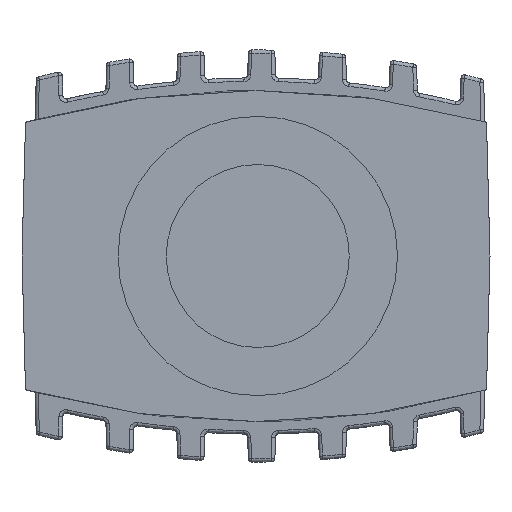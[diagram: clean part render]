
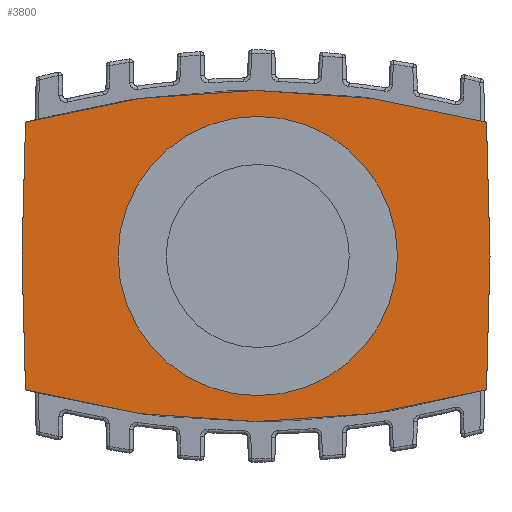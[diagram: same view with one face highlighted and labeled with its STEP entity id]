
A CAD part, front view. The second image highlights one B-rep face of the part: STEP entity #3800.
In plain terms, the highlighted planar face has unit normal (0, -1, 0).
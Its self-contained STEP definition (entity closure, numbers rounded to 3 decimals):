
#3564=CARTESIAN_POINT('',(16.52,0.,-1.5));
#3565=VERTEX_POINT('',#3564);
#3572=CARTESIAN_POINT('',(16.52,0.,1.5));
#3573=VERTEX_POINT('',#3572);
#3574=CARTESIAN_POINT('',(16.52,0.,1.5));
#3575=DIRECTION('',(0.0,0.0,-1.0));
#3576=VECTOR('',#3575,3.);
#3577=LINE('',#3574,#3576);
#3578=EDGE_CURVE('',#3573,#3565,#3577,.T.);
#3706=CARTESIAN_POINT('',(18.038,0.,1.5));
#3707=VERTEX_POINT('',#3706);
#3708=CARTESIAN_POINT('',(18.038,0.,1.5));
#3709=DIRECTION('',(-1.0,0.0,0.0));
#3710=VECTOR('',#3709,1.517);
#3711=LINE('',#3708,#3710);
#3712=EDGE_CURVE('',#3707,#3573,#3711,.T.);
#3724=CARTESIAN_POINT('',(-0.25,0.,-4.512));
#3725=DIRECTION('',(0.0,-1.0,0.0));
#3726=DIRECTION('',(0.0,0.0,-1.0));
#3727=AXIS2_PLACEMENT_3D('',#3724,#3725,#3726);
#3728=PLANE('',#3727);
#3729=CARTESIAN_POINT('',(-33.248,0.,-19.153));
#3730=VERTEX_POINT('',#3729);
#3731=CARTESIAN_POINT('',(32.748,0.,-19.153));
#3732=VERTEX_POINT('',#3731);
#3733=CARTESIAN_POINT('',(-0.25,0.,98.3));
#3734=DIRECTION('',(0.,-1.,0.));
#3735=DIRECTION('',(-0.27,0.,-0.963));
#3736=AXIS2_PLACEMENT_3D('',#3733,#3734,#3735);
#3737=CIRCLE('',#3736,122.);
#3738=EDGE_CURVE('',#3730,#3732,#3737,.T.);
#3739=ORIENTED_EDGE('',*,*,#3738,.T.);
#3740=CARTESIAN_POINT('',(33.25,0.,0.));
#3741=VERTEX_POINT('',#3740);
#3742=CARTESIAN_POINT('',(32.748,0.,-19.153));
#3743=DIRECTION('',(0.026,0.,1.));
#3744=VECTOR('',#3743,19.159);
#3745=LINE('',#3742,#3744);
#3746=EDGE_CURVE('',#3732,#3741,#3745,.T.);
#3747=ORIENTED_EDGE('',*,*,#3746,.T.);
#3748=CARTESIAN_POINT('',(32.748,0.,19.153));
#3749=VERTEX_POINT('',#3748);
#3750=CARTESIAN_POINT('',(33.25,0.,0.));
#3751=DIRECTION('',(-0.026,0.,1.));
#3752=VECTOR('',#3751,19.159);
#3753=LINE('',#3750,#3752);
#3754=EDGE_CURVE('',#3741,#3749,#3753,.T.);
#3755=ORIENTED_EDGE('',*,*,#3754,.T.);
#3756=CARTESIAN_POINT('',(-33.248,0.,19.153));
#3757=VERTEX_POINT('',#3756);
#3758=CARTESIAN_POINT('',(-0.25,0.,-98.3));
#3759=DIRECTION('',(0.,-1.,0.));
#3760=DIRECTION('',(0.27,0.,0.963));
#3761=AXIS2_PLACEMENT_3D('',#3758,#3759,#3760);
#3762=CIRCLE('',#3761,122.);
#3763=EDGE_CURVE('',#3749,#3757,#3762,.T.);
#3764=ORIENTED_EDGE('',*,*,#3763,.T.);
#3765=CARTESIAN_POINT('',(-33.75,0.,0.));
#3766=VERTEX_POINT('',#3765);
#3767=CARTESIAN_POINT('',(-33.248,0.,19.153));
#3768=DIRECTION('',(-0.026,0.,-1.));
#3769=VECTOR('',#3768,19.159);
#3770=LINE('',#3767,#3769);
#3771=EDGE_CURVE('',#3757,#3766,#3770,.T.);
#3772=ORIENTED_EDGE('',*,*,#3771,.T.);
#3773=CARTESIAN_POINT('',(-33.75,0.,0.));
#3774=DIRECTION('',(0.026,0.,-1.));
#3775=VECTOR('',#3774,19.159);
#3776=LINE('',#3773,#3775);
#3777=EDGE_CURVE('',#3766,#3730,#3776,.T.);
#3778=ORIENTED_EDGE('',*,*,#3777,.T.);
#3779=EDGE_LOOP('',(#3739,#3747,#3755,#3764,#3772,#3778));
#3780=FACE_OUTER_BOUND('',#3779,.T.);
#3781=ORIENTED_EDGE('',*,*,#3578,.T.);
#3782=CARTESIAN_POINT('',(18.038,0.,-1.5));
#3783=VERTEX_POINT('',#3782);
#3784=CARTESIAN_POINT('',(16.52,0.,-1.5));
#3785=DIRECTION('',(1.0,0.0,0.0));
#3786=VECTOR('',#3785,1.517);
#3787=LINE('',#3784,#3786);
#3788=EDGE_CURVE('',#3565,#3783,#3787,.T.);
#3789=ORIENTED_EDGE('',*,*,#3788,.T.);
#3790=CARTESIAN_POINT('',(0.,0.,0.));
#3791=DIRECTION('',(0.,1.0,0.));
#3792=DIRECTION('',(0.997,0.,0.083));
#3793=AXIS2_PLACEMENT_3D('',#3790,#3791,#3792);
#3794=CIRCLE('',#3793,18.1);
#3795=EDGE_CURVE('',#3783,#3707,#3794,.T.);
#3796=ORIENTED_EDGE('',*,*,#3795,.T.);
#3797=ORIENTED_EDGE('',*,*,#3712,.T.);
#3798=EDGE_LOOP('',(#3781,#3789,#3796,#3797));
#3799=FACE_BOUND('',#3798,.T.);
#3800=ADVANCED_FACE('',(#3780,#3799),#3728,.T.);
